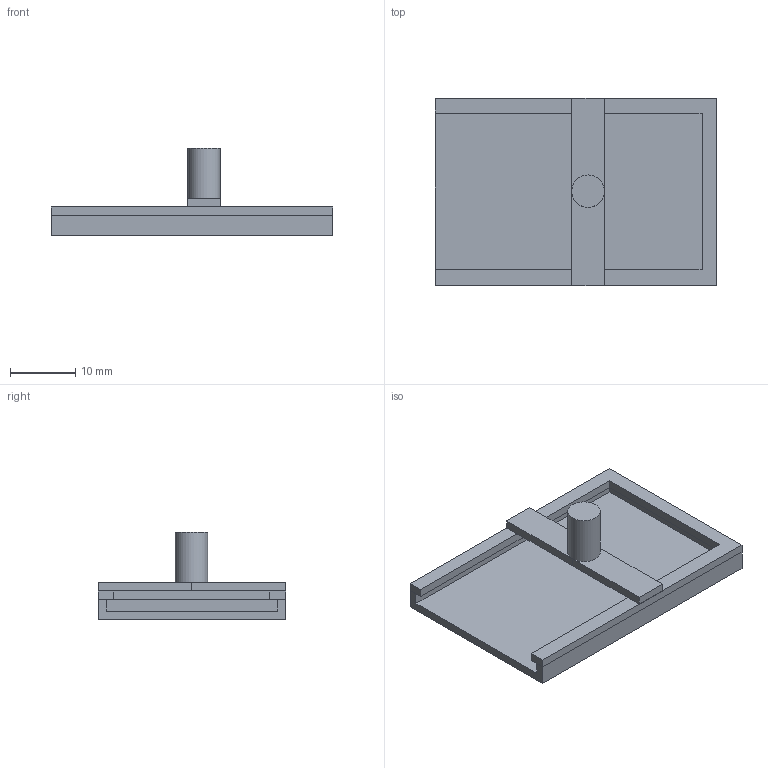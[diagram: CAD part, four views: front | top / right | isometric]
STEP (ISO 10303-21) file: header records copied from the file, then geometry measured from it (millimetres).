
FILE_DESCRIPTION(/* description */ ('','CAx-IF Rec.Pracs.---Representation and Presentation of Product Manufacturing Information (PMI)---4.0---2014-10-13'),/* implementation_level */ '2;1');
FILE_NAME(/* name */ 'Hall Effect Case v1.step',/* time_stamp */ '2025-03-26T10:11:13+05:00',/* author */ (''),/* organization */ (''),/* preprocessor_version */ 'ST-DEVELOPER v20',/* originating_system */ 'Autodesk Translation Framework v13.20.0.188',/* authorisation */ '');
FILE_SCHEMA (('AP242_MANAGED_MODEL_BASED_3D_ENGINEERING_MIM_LF { 1 0 10303 442 1 1 4 }'));
Length unit declared in the file: millimetre
Products named in the file (1): Hall Effect Case
Bounding box: 43.3 x 28.8 x 13.4 mm (x, y, z)
Volume: 2565.4 mm3; surface area: 4450.1 mm2
Topology: 5 solids, 5 shells, 35 faces, 75 edges, 50 vertices
Faces by surface type: plane 32, cylinder 3
Full cylindrical faces by diameter (mm): 5 x1
Entity records: 964 total; most frequent: CARTESIAN_POINT 161, DIRECTION 153, ORIENTED_EDGE 150, EDGE_CURVE 75, LINE 69, VECTOR 69, VERTEX_POINT 50, AXIS2_PLACEMENT_3D 42
